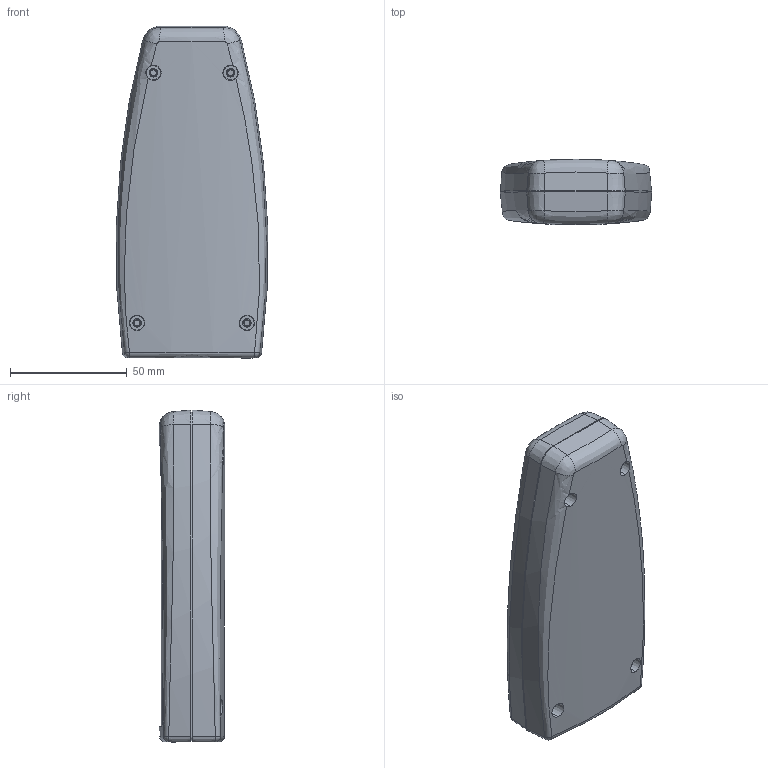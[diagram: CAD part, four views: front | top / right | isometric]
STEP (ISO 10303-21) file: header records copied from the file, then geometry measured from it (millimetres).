
FILE_DESCRIPTION (( 'STEP AP203' ), '1' );
FILE_NAME ('HH-068.STEP', '2021-12-27T14:37:45', ( '' ), ( '' ), 'SwSTEP 2.0', 'SolidWorks 2021', '' );
FILE_SCHEMA (( 'CONFIG_CONTROL_DESIGN' ));
Length unit declared in the file: millimetre
Products named in the file (4): HH-068; HH-066-P-1_a; HH-066-P-2_a; HH-066-P-3
Assembly tree (3 placements, depth 2):
  HH-068
    HH-066-P-1_a
    HH-066-P-2_a
    HH-066-P-3
Bounding box: 64.74 x 28 x 142 mm (x, y, z)
Volume: 54490.3 mm3; surface area: 55129.6 mm2
Topology: 7 solids, 7 shells, 715 faces, 1829 edges, 1160 vertices
Faces by surface type: bspline 256, plane 163, cone 149, cylinder 143, sphere 4
Entity records: 29203 total; most frequent: CARTESIAN_POINT 13678, ORIENTED_EDGE 3658, DIRECTION 2419, EDGE_CURVE 1829, VERTEX_POINT 1160, AXIS2_PLACEMENT_3D 891, EDGE_LOOP 763, B_SPLINE_CURVE_WITH_KNOTS 724
